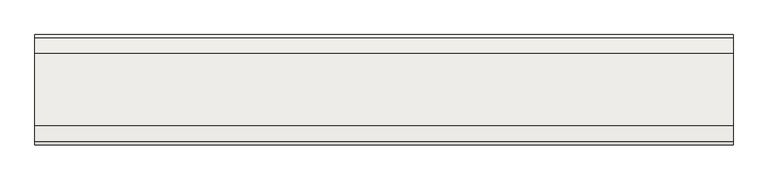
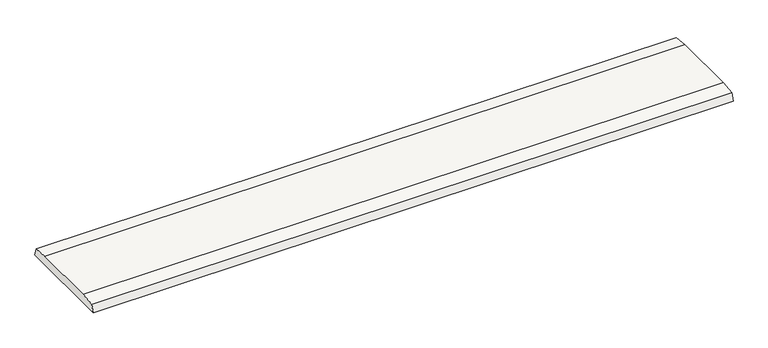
"""IFC4 building model written with IfcOpenShell, lengths in millimetres: slab geometry, ROSA GRES_245 FL_Colocación en plano : Rejilla 245 FL_Tresor_Java_Anti-Slip."""

from ifc_helpers import new_model, si_unit, point, frame, frame_2d, origin, place, context, project, spatial, polyline, circle_curve, trimmed, segment, composite_curve, outline, extrude, source, transform, mapped, element, save


def slab_39e70c32(model_context):
    return source(origin(), model_context, "Body", "SweptSolid", [
        extrude(outline(composite_curve([segment(trimmed(circle_curve(frame_2d((-159.1366814, -720.2412375)), 721.556477), [point((-238.1232639, -3.0209998))], [point((-202.6833158, 0.0))], False, "CARTESIAN"), True, "CONTINUOUS"), segment(polyline([(-202.6833158, 0.0), (-42.7380732, 0.0)]), True, "CONTINUOUS"), segment(trimmed(circle_curve(frame_2d((-86.2847076, -720.2412375)), 721.556477), [point((-42.7380732, 0.0))], [point((-6.8503894, -3.0704499))], False, "CARTESIAN"), True, "CONTINUOUS"), segment(polyline([(-6.8503894, -3.0704499), (-0.9482737, -22.0), (-244.0502169, -22.0), (-238.1232639, -3.0209998)]), True, "CONTINUOUS")], self_intersect=False)), frame((0.0, 0.0, 0.0), z_axis=(1.0, 0.0, 0.0), x_axis=(0.0, 1.0, 0.0)), (0.0, 0.0, 1.0), 1540.0),
    ])


if __name__ == "__main__":
    model = new_model("IFC4")
    model_context = context("Model", 3, world=origin())
    ifc_project = project(units=[si_unit("LENGTHUNIT", "METRE", prefix="MILLI")], contexts=[model_context])
    site = spatial("IfcSite", under=ifc_project)
    building = spatial("IfcBuilding", under=site)
    placement = place(None, origin())
    slab_shape = slab_39e70c32(model_context)
    element("IfcSlab", 1, ObjectType="ROSA GRES_245 FL_Colocación en plano : Rejilla 245 FL_Tresor_Java_Anti-Slip", at=placement, inside=building, context=model_context, shape_type="MappedRepresentation", body=[
        mapped(slab_shape, transform((0.0, 0.0, 0.0), x_axis=(1.0, 0.0, 0.0), y_axis=(0.0, 1.0, 0.0), z_axis=(0.0, 0.0, 1.0))),
    ])
    save(model, "model.ifc")
